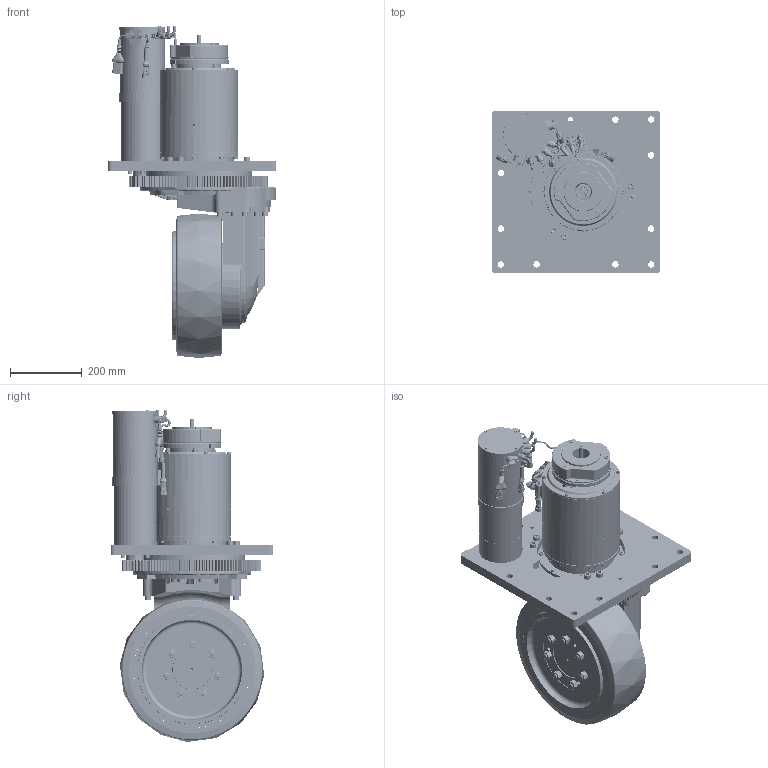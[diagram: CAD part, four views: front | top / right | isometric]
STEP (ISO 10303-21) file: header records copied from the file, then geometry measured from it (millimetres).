
FILE_DESCRIPTION(/* description */ (''),/* implementation_level */ '2;1');
FILE_NAME(/* name */ 'C:\Users\marco bosi\Desktop\WR425FMS-AC-D.200.stp',/* time_stamp */ '2023-09-27T15:09:11+02:00',/* author */ ('marco bosi'),/* organization */ (''),/* preprocessor_version */ 'ST-DEVELOPER v18.1',/* originating_system */ 'Autodesk Inventor 2022',/* authorisation */ '');
FILE_SCHEMA (('AUTOMOTIVE_DESIGN { 1 0 10303 214 3 1 1 }'));
Products named in the file (1): WR425FMS5+BL+piastra e rid. P120_Semplifica_1
Bounding box: 470 x 455 x 928.54 mm (x, y, z)
Volume: 30477401.5 mm3; surface area: 3692693 mm2
Topology: 8 solids, 13 shells, 13437 faces, 35124 edges, 22892 vertices
Faces by surface type: plane 9565, cylinder 2436, cone 795, torus 367, bspline 240, sphere 34
Full cylindrical faces by diameter (mm): 1.88 x2, 3.15 x2, 4 x10, 4.134 x4, 4.917 x15, 5 x6, 5.5 x4, 6 x37, 6.5 x25, 6.647 x18, 6.8 x4, 7 x2, 7.5 x2, 8 x17, 8.376 x10, 8.5 x21, 8.88 x8, 9 x8, 9.5 x10, 9.8 x9, 10 x37, 10.106 x15, 10.2 x5, 10.5 x14, 11 x7, 11.445 x1, 11.8 x3, 12 x23, 12.376 x1, 12.4 x6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
Entity records: 463602 total; most frequent: CARTESIAN_POINT 116727, ORIENTED_EDGE 69938, DIRECTION 69417, EDGE_CURVE 34969, AXIS2_PLACEMENT_3D 24126, VERTEX_POINT 22892, LINE 21165, VECTOR 21165
